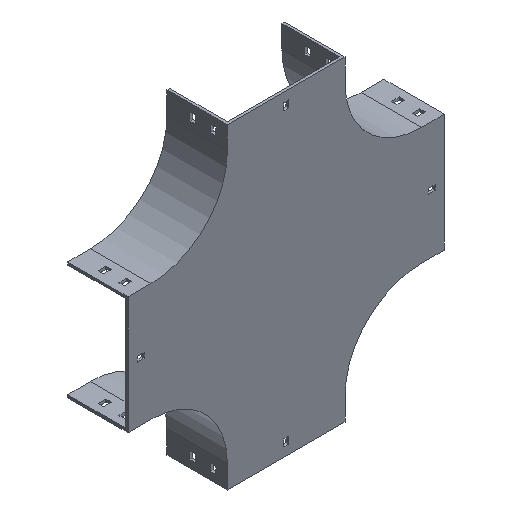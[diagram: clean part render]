
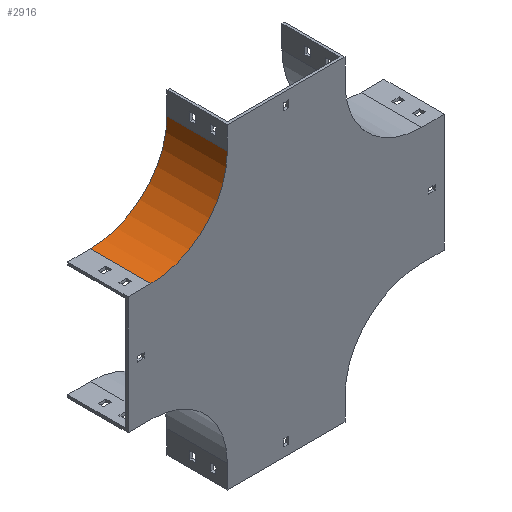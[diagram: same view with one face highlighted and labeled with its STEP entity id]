
A CAD part, isometric view. The second image highlights one B-rep face of the part: STEP entity #2916.
In plain terms, the highlighted cylindrical face has radius 100 mm (diameter 200 mm), a partial arc.
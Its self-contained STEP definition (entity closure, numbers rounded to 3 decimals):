
#51 = EDGE_CURVE ( 'NONE', #209, #1391, #3092, .T. ) ;
#209 = VERTEX_POINT ( 'NONE', #2572 ) ;
#258 = EDGE_CURVE ( 'NONE', #3464, #209, #3002, .T. ) ;
#433 = EDGE_CURVE ( 'NONE', #3464, #751, #2539, .T. ) ;
#510 = CARTESIAN_POINT ( 'NONE',  ( -354., 79., -100. ) ) ;
#528 = DIRECTION ( 'NONE',  ( 0., -1., 0. ) ) ;
#540 = CARTESIAN_POINT ( 'NONE',  ( -354., 79., 0. ) ) ;
#606 = VECTOR ( 'NONE', #528, 1000. ) ;
#628 = DIRECTION ( 'NONE',  ( 0., 0., 1. ) ) ;
#751 = VERTEX_POINT ( 'NONE', #1126 ) ;
#784 = CARTESIAN_POINT ( 'NONE',  ( -354., 79., -100. ) ) ;
#827 = CIRCLE ( 'NONE', #1843, 100. ) ;
#890 = DIRECTION ( 'NONE',  ( 0., -1., 0. ) ) ;
#905 = ORIENTED_EDGE ( 'NONE', *, *, #258, .F. ) ;
#1126 = CARTESIAN_POINT ( 'NONE',  ( -354., 0., -100. ) ) ;
#1381 = VECTOR ( 'NONE', #1661, 1000. ) ;
#1391 = VERTEX_POINT ( 'NONE', #3289 ) ;
#1649 = DIRECTION ( 'NONE',  ( 0., -1., 0. ) ) ;
#1661 = DIRECTION ( 'NONE',  ( 0., -1., 0. ) ) ;
#1734 = FACE_OUTER_BOUND ( 'NONE', #2168, .T. ) ;
#1831 = CARTESIAN_POINT ( 'NONE',  ( -354., 0., 0. ) ) ;
#1843 = AXIS2_PLACEMENT_3D ( 'NONE', #1831, #3636, #628 ) ;
#2115 = AXIS2_PLACEMENT_3D ( 'NONE', #540, #1649, #2551 ) ;
#2168 = EDGE_LOOP ( 'NONE', ( #3239, #2966, #905, #3652 ) ) ;
#2292 = EDGE_CURVE ( 'NONE', #751, #1391, #827, .T. ) ;
#2539 = LINE ( 'NONE', #510, #1381 ) ;
#2551 = DIRECTION ( 'NONE',  ( 0., 0., 1. ) ) ;
#2572 = CARTESIAN_POINT ( 'NONE',  ( -254., 79., 0. ) ) ;
#2916 = ADVANCED_FACE ( 'NONE', ( #1734 ), #3535, .F. ) ;
#2952 = DIRECTION ( 'NONE',  ( 0., 0., -1. ) ) ;
#2966 = ORIENTED_EDGE ( 'NONE', *, *, #51, .F. ) ;
#3002 = CIRCLE ( 'NONE', #2115, 100. ) ;
#3092 = LINE ( 'NONE', #3108, #606 ) ;
#3108 = CARTESIAN_POINT ( 'NONE',  ( -254., 79., 0. ) ) ;
#3239 = ORIENTED_EDGE ( 'NONE', *, *, #2292, .T. ) ;
#3260 = AXIS2_PLACEMENT_3D ( 'NONE', #3519, #890, #2952 ) ;
#3289 = CARTESIAN_POINT ( 'NONE',  ( -254., 0., 0. ) ) ;
#3464 = VERTEX_POINT ( 'NONE', #784 ) ;
#3519 = CARTESIAN_POINT ( 'NONE',  ( -354., 79., 0. ) ) ;
#3535 = CYLINDRICAL_SURFACE ( 'NONE', #3260, 100. ) ;
#3636 = DIRECTION ( 'NONE',  ( 0., -1., 0. ) ) ;
#3652 = ORIENTED_EDGE ( 'NONE', *, *, #433, .T. ) ;
